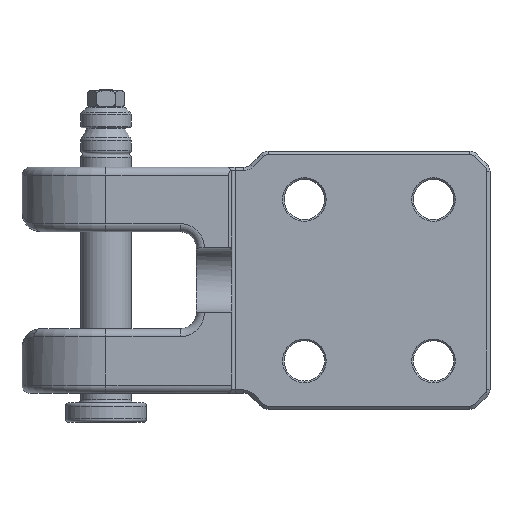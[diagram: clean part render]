
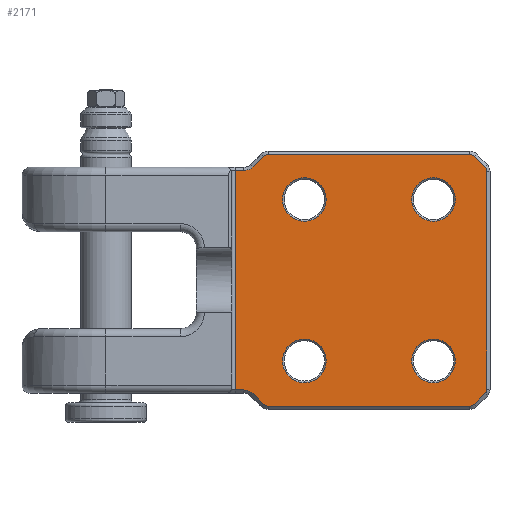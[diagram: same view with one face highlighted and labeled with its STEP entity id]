
A CAD part, left-side view. The second image highlights one B-rep face of the part: STEP entity #2171.
In plain terms, the highlighted planar face has unit normal (-1, 0, 0).
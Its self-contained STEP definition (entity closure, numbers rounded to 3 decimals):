
#1632=CIRCLE('',#16779,6.75);
#1633=CIRCLE('',#16780,6.75);
#1634=CIRCLE('',#16781,6.75);
#1635=CIRCLE('',#16782,6.75);
#1636=CIRCLE('',#16783,4.);
#1637=CIRCLE('',#16784,4.);
#1638=CIRCLE('',#16785,2.);
#1639=CIRCLE('',#16786,2.);
#1640=CIRCLE('',#16787,2.);
#1641=CIRCLE('',#16788,2.);
#1642=CIRCLE('',#16789,2.);
#1643=CIRCLE('',#16790,2.);
#2171=ADVANCED_FACE('',(#3139,#3140,#3141,#3142,#3143),#2830,.F.);
#2830=PLANE('',#16791);
#3139=FACE_BOUND('',#3704,.T.);
#3140=FACE_BOUND('',#3705,.T.);
#3141=FACE_BOUND('',#3706,.T.);
#3142=FACE_BOUND('',#3707,.T.);
#3143=FACE_BOUND('',#3708,.T.);
#3704=EDGE_LOOP('',(#9025));
#3705=EDGE_LOOP('',(#9026));
#3706=EDGE_LOOP('',(#9027));
#3707=EDGE_LOOP('',(#9028));
#3708=EDGE_LOOP('',(#9029,#9030,#9031,#9032,#9033,#9034,#9035,#9036,#9037,
#9038,#9039,#9040,#9041,#9042,#9043,#9044,#9045,#9046));
#4806=LINE('',#33806,#6001);
#4807=LINE('',#33808,#6002);
#4808=LINE('',#33810,#6003);
#4809=LINE('',#33814,#6004);
#4810=LINE('',#33818,#6005);
#4811=LINE('',#33822,#6006);
#4812=LINE('',#33826,#6007);
#4813=LINE('',#33830,#6008);
#4814=LINE('',#33834,#6009);
#4815=LINE('',#33838,#6010);
#6001=VECTOR('',#18642,1.);
#6002=VECTOR('',#18643,1.);
#6003=VECTOR('',#18644,1.);
#6004=VECTOR('',#18647,1.);
#6005=VECTOR('',#18650,1.);
#6006=VECTOR('',#18653,1.);
#6007=VECTOR('',#18656,1.);
#6008=VECTOR('',#18659,1.);
#6009=VECTOR('',#18662,1.);
#6010=VECTOR('',#18665,1.);
#9025=ORIENTED_EDGE('',*,*,#14122,.T.);
#9026=ORIENTED_EDGE('',*,*,#14123,.T.);
#9027=ORIENTED_EDGE('',*,*,#14124,.T.);
#9028=ORIENTED_EDGE('',*,*,#14125,.T.);
#9029=ORIENTED_EDGE('',*,*,#14126,.T.);
#9030=ORIENTED_EDGE('',*,*,#14127,.T.);
#9031=ORIENTED_EDGE('',*,*,#14128,.T.);
#9032=ORIENTED_EDGE('',*,*,#14129,.T.);
#9033=ORIENTED_EDGE('',*,*,#14130,.T.);
#9034=ORIENTED_EDGE('',*,*,#14131,.T.);
#9035=ORIENTED_EDGE('',*,*,#14132,.T.);
#9036=ORIENTED_EDGE('',*,*,#14133,.T.);
#9037=ORIENTED_EDGE('',*,*,#14134,.T.);
#9038=ORIENTED_EDGE('',*,*,#14135,.T.);
#9039=ORIENTED_EDGE('',*,*,#14136,.T.);
#9040=ORIENTED_EDGE('',*,*,#14137,.T.);
#9041=ORIENTED_EDGE('',*,*,#14138,.T.);
#9042=ORIENTED_EDGE('',*,*,#14139,.T.);
#9043=ORIENTED_EDGE('',*,*,#14140,.T.);
#9044=ORIENTED_EDGE('',*,*,#14141,.T.);
#9045=ORIENTED_EDGE('',*,*,#14142,.T.);
#9046=ORIENTED_EDGE('',*,*,#14143,.T.);
#12277=VERTEX_POINT('',#33796);
#12278=VERTEX_POINT('',#33798);
#12279=VERTEX_POINT('',#33800);
#12280=VERTEX_POINT('',#33802);
#12281=VERTEX_POINT('',#33804);
#12282=VERTEX_POINT('',#33805);
#12283=VERTEX_POINT('',#33807);
#12284=VERTEX_POINT('',#33809);
#12285=VERTEX_POINT('',#33811);
#12286=VERTEX_POINT('',#33813);
#12287=VERTEX_POINT('',#33815);
#12288=VERTEX_POINT('',#33817);
#12289=VERTEX_POINT('',#33819);
#12290=VERTEX_POINT('',#33821);
#12291=VERTEX_POINT('',#33823);
#12292=VERTEX_POINT('',#33825);
#12293=VERTEX_POINT('',#33827);
#12294=VERTEX_POINT('',#33829);
#12295=VERTEX_POINT('',#33831);
#12296=VERTEX_POINT('',#33833);
#12297=VERTEX_POINT('',#33835);
#12298=VERTEX_POINT('',#33837);
#14122=EDGE_CURVE('',#12277,#12277,#1632,.T.);
#14123=EDGE_CURVE('',#12278,#12278,#1633,.T.);
#14124=EDGE_CURVE('',#12279,#12279,#1634,.T.);
#14125=EDGE_CURVE('',#12280,#12280,#1635,.T.);
#14126=EDGE_CURVE('',#12281,#12282,#1636,.T.);
#14127=EDGE_CURVE('',#12282,#12283,#4806,.T.);
#14128=EDGE_CURVE('',#12283,#12284,#4807,.T.);
#14129=EDGE_CURVE('',#12284,#12285,#4808,.T.);
#14130=EDGE_CURVE('',#12285,#12286,#1637,.T.);
#14131=EDGE_CURVE('',#12286,#12287,#4809,.T.);
#14132=EDGE_CURVE('',#12287,#12288,#1638,.T.);
#14133=EDGE_CURVE('',#12288,#12289,#4810,.T.);
#14134=EDGE_CURVE('',#12289,#12290,#1639,.T.);
#14135=EDGE_CURVE('',#12290,#12291,#4811,.T.);
#14136=EDGE_CURVE('',#12291,#12292,#1640,.T.);
#14137=EDGE_CURVE('',#12292,#12293,#4812,.T.);
#14138=EDGE_CURVE('',#12293,#12294,#1641,.T.);
#14139=EDGE_CURVE('',#12294,#12295,#4813,.T.);
#14140=EDGE_CURVE('',#12295,#12296,#1642,.T.);
#14141=EDGE_CURVE('',#12296,#12297,#4814,.T.);
#14142=EDGE_CURVE('',#12297,#12298,#1643,.T.);
#14143=EDGE_CURVE('',#12298,#12281,#4815,.T.);
#16779=AXIS2_PLACEMENT_3D('',#33795,#18632,#18633);
#16780=AXIS2_PLACEMENT_3D('',#33797,#18634,#18635);
#16781=AXIS2_PLACEMENT_3D('',#33799,#18636,#18637);
#16782=AXIS2_PLACEMENT_3D('',#33801,#18638,#18639);
#16783=AXIS2_PLACEMENT_3D('',#33803,#18640,#18641);
#16784=AXIS2_PLACEMENT_3D('',#33812,#18645,#18646);
#16785=AXIS2_PLACEMENT_3D('',#33816,#18648,#18649);
#16786=AXIS2_PLACEMENT_3D('',#33820,#18651,#18652);
#16787=AXIS2_PLACEMENT_3D('',#33824,#18654,#18655);
#16788=AXIS2_PLACEMENT_3D('',#33828,#18657,#18658);
#16789=AXIS2_PLACEMENT_3D('',#33832,#18660,#18661);
#16790=AXIS2_PLACEMENT_3D('',#33836,#18663,#18664);
#16791=AXIS2_PLACEMENT_3D('',#33839,#18666,#18667);
#18632=DIRECTION('',(1.,0.,0.));
#18633=DIRECTION('',(0.,0.,-1.));
#18634=DIRECTION('',(1.,0.,0.));
#18635=DIRECTION('',(0.,0.,-1.));
#18636=DIRECTION('',(1.,0.,0.));
#18637=DIRECTION('',(0.,0.,-1.));
#18638=DIRECTION('',(1.,0.,0.));
#18639=DIRECTION('',(0.,0.,-1.));
#18640=DIRECTION('',(1.,0.,0.));
#18641=DIRECTION('',(0.,0.,-1.));
#18642=DIRECTION('',(0.,1.,0.));
#18643=DIRECTION('',(0.,0.,-1.));
#18644=DIRECTION('',(0.,-1.,0.));
#18645=DIRECTION('',(1.,0.,0.));
#18646=DIRECTION('',(0.,0.,-1.));
#18647=DIRECTION('',(0.,-0.707,-0.707));
#18648=DIRECTION('',(-1.,0.,0.));
#18649=DIRECTION('',(0.,0.,-1.));
#18650=DIRECTION('',(0.,-1.,0.));
#18651=DIRECTION('',(-1.,0.,0.));
#18652=DIRECTION('',(0.,0.,-1.));
#18653=DIRECTION('',(0.,-0.707,0.707));
#18654=DIRECTION('',(-1.,0.,0.));
#18655=DIRECTION('',(0.,0.,-1.));
#18656=DIRECTION('',(0.,0.,1.));
#18657=DIRECTION('',(-1.,0.,0.));
#18658=DIRECTION('',(0.,0.,-1.));
#18659=DIRECTION('',(0.,0.707,0.707));
#18660=DIRECTION('',(-1.,0.,0.));
#18661=DIRECTION('',(0.,0.,-1.));
#18662=DIRECTION('',(0.,1.,0.));
#18663=DIRECTION('',(-1.,0.,0.));
#18664=DIRECTION('',(0.,0.,-1.));
#18665=DIRECTION('',(0.,0.707,-0.707));
#18666=DIRECTION('',(1.,0.,0.));
#18667=DIRECTION('',(0.,0.,-1.));
#33795=CARTESIAN_POINT('',(-6.,17.5,-65.));
#33796=CARTESIAN_POINT('',(-6.,17.5,-71.75));
#33797=CARTESIAN_POINT('',(-6.,17.5,-15.));
#33798=CARTESIAN_POINT('',(-6.,17.5,-21.75));
#33799=CARTESIAN_POINT('',(-6.,57.5,-15.));
#33800=CARTESIAN_POINT('',(-6.,57.5,-21.75));
#33801=CARTESIAN_POINT('',(-6.,57.5,-65.));
#33802=CARTESIAN_POINT('',(-6.,57.5,-71.75));
#33803=CARTESIAN_POINT('',(-6.,76.243,-2.));
#33804=CARTESIAN_POINT('',(-6.,73.414,-4.828));
#33805=CARTESIAN_POINT('',(-6.,76.243,-6.));
#33806=CARTESIAN_POINT('',(-6.,0.,-6.));
#33807=CARTESIAN_POINT('',(-6.,79.,-6.));
#33808=CARTESIAN_POINT('',(-6.,79.,0.));
#33809=CARTESIAN_POINT('',(-6.,79.,-74.));
#33810=CARTESIAN_POINT('',(-6.,76.243,-74.));
#33811=CARTESIAN_POINT('',(-6.,76.243,-74.));
#33812=CARTESIAN_POINT('',(-6.,76.243,-78.));
#33813=CARTESIAN_POINT('',(-6.,73.414,-75.172));
#33814=CARTESIAN_POINT('',(-6.,70.172,-78.414));
#33815=CARTESIAN_POINT('',(-6.,70.172,-78.414));
#33816=CARTESIAN_POINT('',(-6.,68.757,-77.));
#33817=CARTESIAN_POINT('',(-6.,68.757,-79.));
#33818=CARTESIAN_POINT('',(-6.,0.,-79.));
#33819=CARTESIAN_POINT('',(-6.,6.243,-79.));
#33820=CARTESIAN_POINT('',(-6.,6.243,-77.));
#33821=CARTESIAN_POINT('',(-6.,4.828,-78.414));
#33822=CARTESIAN_POINT('',(-6.,1.586,-75.172));
#33823=CARTESIAN_POINT('',(-6.,1.586,-75.172));
#33824=CARTESIAN_POINT('',(-6.,3.,-73.757));
#33825=CARTESIAN_POINT('',(-6.,1.,-73.757));
#33826=CARTESIAN_POINT('',(-6.,1.,0.));
#33827=CARTESIAN_POINT('',(-6.,1.,-6.243));
#33828=CARTESIAN_POINT('',(-6.,3.,-6.243));
#33829=CARTESIAN_POINT('',(-6.,1.586,-4.828));
#33830=CARTESIAN_POINT('',(-6.,4.828,-1.586));
#33831=CARTESIAN_POINT('',(-6.,4.828,-1.586));
#33832=CARTESIAN_POINT('',(-6.,6.243,-3.));
#33833=CARTESIAN_POINT('',(-6.,6.243,-1.));
#33834=CARTESIAN_POINT('',(-6.,0.,-1.));
#33835=CARTESIAN_POINT('',(-6.,68.757,-1.));
#33836=CARTESIAN_POINT('',(-6.,68.757,-3.));
#33837=CARTESIAN_POINT('',(-6.,70.172,-1.586));
#33838=CARTESIAN_POINT('',(-6.,73.414,-4.828));
#33839=CARTESIAN_POINT('',(-6.,0.,0.));
